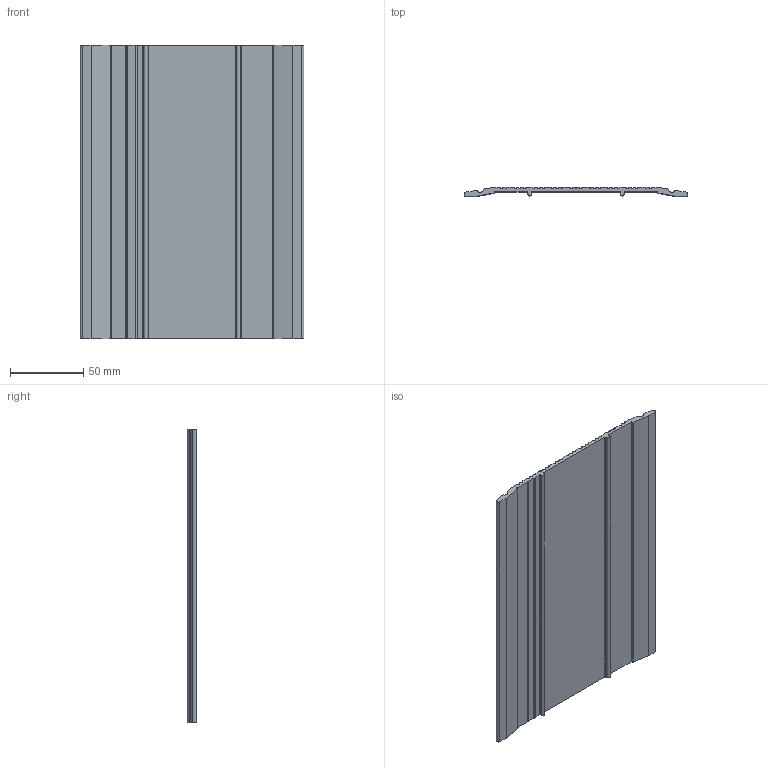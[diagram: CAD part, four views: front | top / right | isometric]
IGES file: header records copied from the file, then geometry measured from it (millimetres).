
Global section: file name: No Iges File Name specified; native system: Autodesk Inventor 2012; preprocessor: AutoDesk Inventor Iges Exporter R2012; author: anna.b; date: 20130614.101031; units: millimetre
Bounding box: 152.4 x 6.35 x 200 mm (x, y, z)
Volume: 92267.1 mm3; surface area: 68986.6 mm2
Topology: 1 solids, 1 shells, 149 faces, 441 edges, 294 vertices
Faces by surface type: cylinder 66, plane 48, revolution 35
